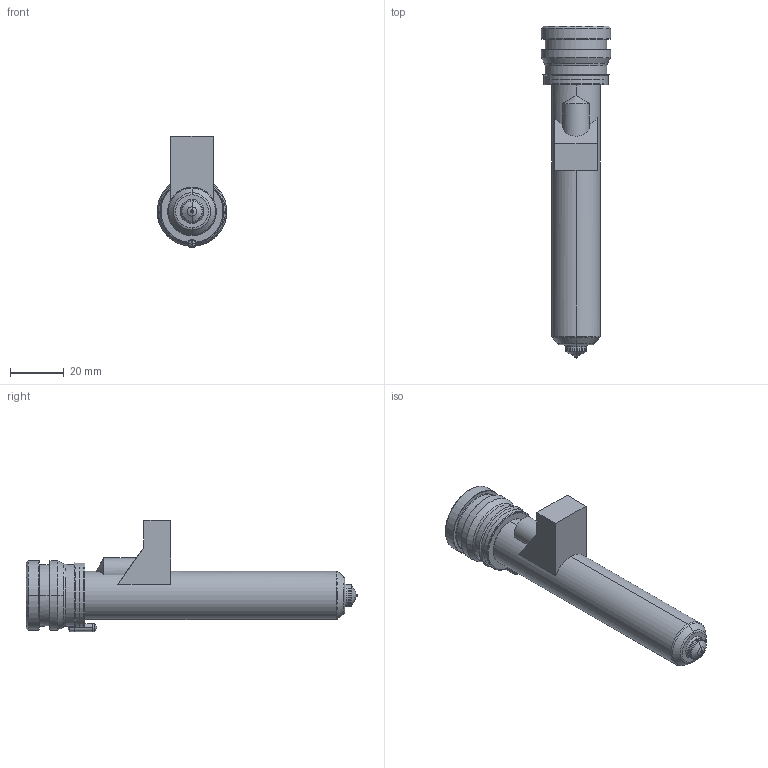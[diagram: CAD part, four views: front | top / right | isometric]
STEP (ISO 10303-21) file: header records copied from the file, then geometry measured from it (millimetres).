
FILE_DESCRIPTION((''),'2;1');
FILE_NAME('MPN-08-24-VSA8-106-M','2026-02-05T13:34:22',('UPTIO'),('Thermoplay S.p.A.'),'CREO PARAMETRIC BY PTC INC, 2023494','CREO PARAMETRIC BY PTC INC, 2023494','');
FILE_SCHEMA(('CONFIG_CONTROL_DESIGN','SHAPE_APPEARANCE_LAYERS_GROUPS'));
Length unit declared in the file: millimetre
Products named in the file (1): MPN-08-24-VSA8-106-M
Bounding box: 26 x 124 x 41.5 mm (x, y, z)
Volume: 24519 mm3; surface area: 32179.1 mm2
Topology: 2 solids, 3 shells, 527 faces, 1374 edges, 846 vertices
Faces by surface type: cylinder 176, plane 143, bspline 75, torus 60, cone 58, sphere 9, extrusion 6
Entity records: 27135 total; most frequent: CARTESIAN_POINT 11656, ORIENTED_EDGE 2730, DIRECTION 2497, EDGE_CURVE 1365, AXIS2_PLACEMENT_3D 975, VERTEX_POINT 846, EDGE_LOOP 557, VECTOR 547
